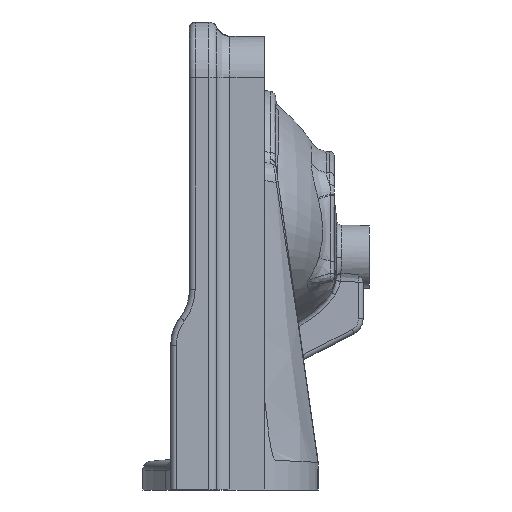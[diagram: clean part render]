
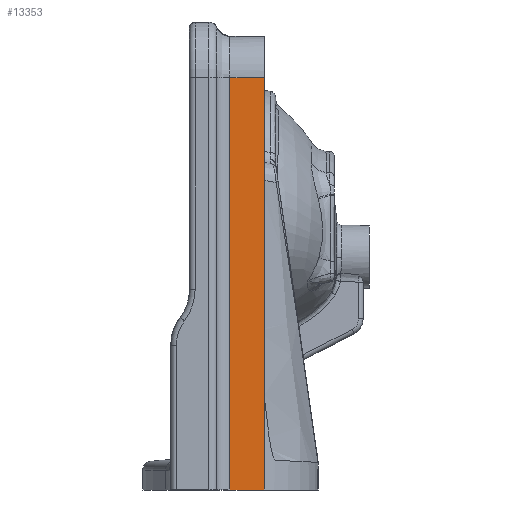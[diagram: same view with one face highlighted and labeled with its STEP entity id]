
A CAD part, left-side view. The second image highlights one B-rep face of the part: STEP entity #13353.
In plain terms, the highlighted planar face has unit normal (-1, 0, 0).
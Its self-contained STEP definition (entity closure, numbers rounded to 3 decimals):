
#816 = PLANE ( 'NONE',  #72072 ) ;
#3305 = VERTEX_POINT ( 'NONE', #45928 ) ;
#3488 = ORIENTED_EDGE ( 'NONE', *, *, #34734, .F. ) ;
#5061 = VECTOR ( 'NONE', #31540, 1000. ) ;
#8019 = VERTEX_POINT ( 'NONE', #20182 ) ;
#10262 = ORIENTED_EDGE ( 'NONE', *, *, #58930, .T. ) ;
#13353 = ADVANCED_FACE ( 'NONE', ( #54571 ), #816, .F. ) ;
#14668 = VECTOR ( 'NONE', #72759, 1000. ) ;
#16864 = CARTESIAN_POINT ( 'NONE',  ( 1866.019, 2166.813, -455.215 ) ) ;
#17755 = CARTESIAN_POINT ( 'NONE',  ( 1866.019, 2179.949, -15.215 ) ) ;
#18055 = DIRECTION ( 'NONE',  ( 1., 0., 0. ) ) ;
#18383 = CARTESIAN_POINT ( 'NONE',  ( 1866.019, 2166.813, -15.228 ) ) ;
#20182 = CARTESIAN_POINT ( 'NONE',  ( 1866.019, 2166.813, -455.215 ) ) ;
#21200 = ORIENTED_EDGE ( 'NONE', *, *, #45011, .T. ) ;
#25708 = CARTESIAN_POINT ( 'NONE',  ( 1866.019, 2129.949, -455.215 ) ) ;
#28270 = EDGE_LOOP ( 'NONE', ( #3488, #72113, #21200, #64302, #10262 ) ) ;
#29066 = LINE ( 'NONE', #38449, #5061 ) ;
#29140 = LINE ( 'NONE', #16864, #45390 ) ;
#30379 = DIRECTION ( 'NONE',  ( 0., 0., -1. ) ) ;
#30988 = LINE ( 'NONE', #17755, #14668 ) ;
#31540 = DIRECTION ( 'NONE',  ( 0., -1., 0. ) ) ;
#33223 = CARTESIAN_POINT ( 'NONE',  ( 1866.019, 2166.813, -15.235 ) ) ;
#34730 = LINE ( 'NONE', #25708, #77948 ) ;
#34734 = EDGE_CURVE ( 'NONE', #68191, #3305, #30988, .T. ) ;
#38449 = CARTESIAN_POINT ( 'NONE',  ( 1866.019, 2179.949, -455.215 ) ) ;
#38857 = EDGE_CURVE ( 'NONE', #68191, #46178, #61505, .T. ) ;
#45011 = EDGE_CURVE ( 'NONE', #46178, #8019, #29140, .T. ) ;
#45390 = VECTOR ( 'NONE', #58709, 1000. ) ;
#45928 = CARTESIAN_POINT ( 'NONE',  ( 1866.019, 2129.949, -15.215 ) ) ;
#46178 = VERTEX_POINT ( 'NONE', #33223 ) ;
#49897 = CARTESIAN_POINT ( 'NONE',  ( 1866.019, 2179.949, -455.215 ) ) ;
#50925 = CARTESIAN_POINT ( 'NONE',  ( 1866.019, 2129.949, -455.215 ) ) ;
#54571 = FACE_OUTER_BOUND ( 'NONE', #28270, .T. ) ;
#54877 = CARTESIAN_POINT ( 'NONE',  ( 1866.019, 2166.813, -15.221 ) ) ;
#55363 = EDGE_CURVE ( 'NONE', #8019, #63382, #29066, .T. ) ;
#55647 = CARTESIAN_POINT ( 'NONE',  ( 1866.019, 2166.813, -15.215 ) ) ;
#58709 = DIRECTION ( 'NONE',  ( 0., 0., -1. ) ) ;
#58930 = EDGE_CURVE ( 'NONE', #63382, #3305, #34730, .T. ) ;
#61376 = DIRECTION ( 'NONE',  ( 0., 0., 1. ) ) ;
#61505 = B_SPLINE_CURVE_WITH_KNOTS ( 'NONE', 3,
 ( #66687, #54877, #18383, #67734 ),
 .UNSPECIFIED., .F., .F.,
 ( 4, 4 ),
 ( 0., 0. ),
 .UNSPECIFIED. ) ;
#63382 = VERTEX_POINT ( 'NONE', #50925 ) ;
#64302 = ORIENTED_EDGE ( 'NONE', *, *, #55363, .T. ) ;
#66687 = CARTESIAN_POINT ( 'NONE',  ( 1866.019, 2166.813, -15.215 ) ) ;
#67734 = CARTESIAN_POINT ( 'NONE',  ( 1866.019, 2166.813, -15.235 ) ) ;
#68191 = VERTEX_POINT ( 'NONE', #55647 ) ;
#72072 = AXIS2_PLACEMENT_3D ( 'NONE', #49897, #18055, #30379 ) ;
#72113 = ORIENTED_EDGE ( 'NONE', *, *, #38857, .T. ) ;
#72759 = DIRECTION ( 'NONE',  ( 0., -1., 0. ) ) ;
#77948 = VECTOR ( 'NONE', #61376, 1000. ) ;
